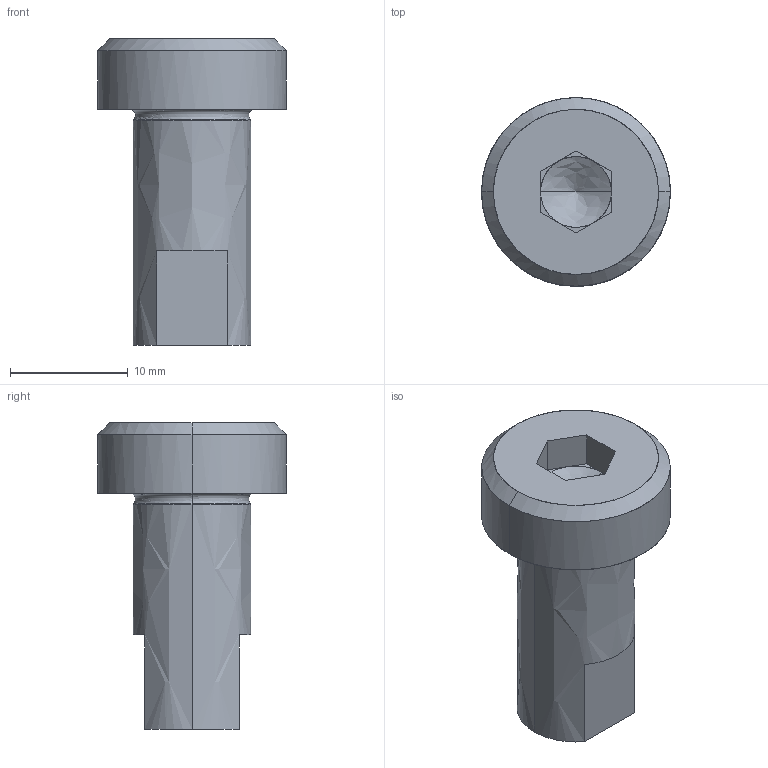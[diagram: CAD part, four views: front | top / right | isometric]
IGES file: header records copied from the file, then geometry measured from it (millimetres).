
Global section: file name: E:\UnigraphicsGraphicData\MISUMI_PRESS-PARTS\IGES\3d_sbtn10-20_00138_r00.igs; native system: NX V5.0; preprocessor: UGS NX IGES V5.0; author: MISUMI; date: 20110105.162505; units: millimetre
Bounding box: 16 x 16 x 26 mm (x, y, z)
Surface area: 1627.1 mm2 (no closed solid volume)
Topology: 0 solids, 0 shells, 38 faces, 202 edges, 198 vertices
Faces by surface type: bspline 38
